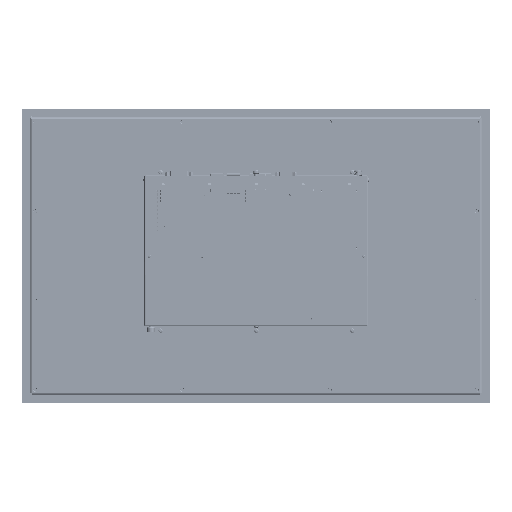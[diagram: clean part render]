
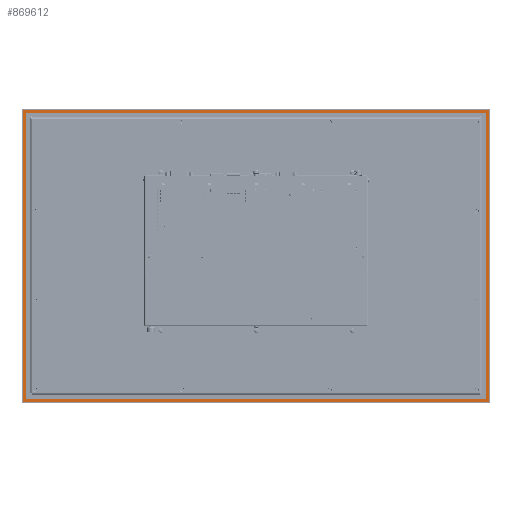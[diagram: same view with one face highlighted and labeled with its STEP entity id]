
A CAD part, front view. The second image highlights one B-rep face of the part: STEP entity #869612.
In plain terms, the highlighted planar face has unit normal (0, -1, 0).
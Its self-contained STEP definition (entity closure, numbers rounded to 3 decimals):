
#297 = CARTESIAN_POINT ( 'NONE',  ( 0., 0., 0. ) ) ;
#7777 = CARTESIAN_POINT ( 'NONE',  ( 312.75, 0., -195.25 ) ) ;
#24508 = VERTEX_POINT ( 'NONE', #7777 ) ;
#32258 = VECTOR ( 'NONE', #628864, 1000. ) ;
#38550 = CARTESIAN_POINT ( 'NONE',  ( 314., 0., 194. ) ) ;
#53491 = ORIENTED_EDGE ( 'NONE', *, *, #69085, .F. ) ;
#53752 = ORIENTED_EDGE ( 'NONE', *, *, #100572, .F. ) ;
#58156 = CARTESIAN_POINT ( 'NONE',  ( -316.75, 0., -198. ) ) ;
#63326 = CARTESIAN_POINT ( 'NONE',  ( 312.75, 0., 194. ) ) ;
#66238 = LINE ( 'NONE', #540839, #836467 ) ;
#67185 = VERTEX_POINT ( 'NONE', #253313 ) ;
#68948 = AXIS2_PLACEMENT_3D ( 'NONE', #264673, #598028, #872011 ) ;
#69085 = EDGE_CURVE ( 'NONE', #450495, #631180, #359707, .T. ) ;
#73912 = DIRECTION ( 'NONE',  ( 1., 0., 0. ) ) ;
#83525 = DIRECTION ( 'NONE',  ( 0., 0., 1. ) ) ;
#100572 = EDGE_CURVE ( 'NONE', #758669, #500595, #179753, .T. ) ;
#100598 = ORIENTED_EDGE ( 'NONE', *, *, #512531, .F. ) ;
#106411 = CIRCLE ( 'NONE', #631205, 1.75 ) ;
#109406 = CARTESIAN_POINT ( 'NONE',  ( -318.5, 0., -198. ) ) ;
#120532 = DIRECTION ( 'NONE',  ( 0., 1., 0. ) ) ;
#120855 = CARTESIAN_POINT ( 'NONE',  ( 314., 0., -194. ) ) ;
#126506 = ORIENTED_EDGE ( 'NONE', *, *, #386833, .F. ) ;
#146719 = CARTESIAN_POINT ( 'NONE',  ( -312.75, 0., 194. ) ) ;
#148867 = EDGE_LOOP ( 'NONE', ( #607547, #254751, #255456, #507257, #388522, #100598, #358288, #583175 ) ) ;
#149658 = EDGE_CURVE ( 'NONE', #853190, #758669, #171384, .T. ) ;
#158075 = DIRECTION ( 'NONE',  ( 0., 0., -1. ) ) ;
#161183 = VECTOR ( 'NONE', #735655, 1000. ) ;
#165554 = DIRECTION ( 'NONE',  ( 0., -1., 0. ) ) ;
#166749 = EDGE_CURVE ( 'NONE', #490085, #183990, #772131, .T. ) ;
#169907 = AXIS2_PLACEMENT_3D ( 'NONE', #501812, #165554, #637449 ) ;
#171384 = LINE ( 'NONE', #263730, #161183 ) ;
#179614 = VERTEX_POINT ( 'NONE', #38550 ) ;
#179753 = CIRCLE ( 'NONE', #68948, 1.75 ) ;
#183990 = VERTEX_POINT ( 'NONE', #469152 ) ;
#194014 = ORIENTED_EDGE ( 'NONE', *, *, #590833, .F. ) ;
#203504 = DIRECTION ( 'NONE',  ( 0., 1., 0. ) ) ;
#203873 = PLANE ( 'NONE',  #244177 ) ;
#205044 = VECTOR ( 'NONE', #158075, 1000. ) ;
#211348 = FACE_OUTER_BOUND ( 'NONE', #318984, .T. ) ;
#212690 = DIRECTION ( 'NONE',  ( -1., 0., 0. ) ) ;
#244177 = AXIS2_PLACEMENT_3D ( 'NONE', #297, #820170, #73912 ) ;
#250396 = EDGE_CURVE ( 'NONE', #541541, #490085, #426895, .T. ) ;
#253313 = CARTESIAN_POINT ( 'NONE',  ( -312.75, 0., 195.25 ) ) ;
#254751 = ORIENTED_EDGE ( 'NONE', *, *, #250396, .F. ) ;
#255456 = ORIENTED_EDGE ( 'NONE', *, *, #529761, .F. ) ;
#258815 = DIRECTION ( 'NONE',  ( 0., 1., 0. ) ) ;
#263730 = CARTESIAN_POINT ( 'NONE',  ( -316.75, 0., 199.75 ) ) ;
#264673 = CARTESIAN_POINT ( 'NONE',  ( 316.75, 0., 198. ) ) ;
#270617 = AXIS2_PLACEMENT_3D ( 'NONE', #146719, #494779, #429905 ) ;
#271308 = DIRECTION ( 'NONE',  ( 1., 0., 0. ) ) ;
#274707 = EDGE_CURVE ( 'NONE', #831346, #67185, #395986, .T. ) ;
#286462 = EDGE_CURVE ( 'NONE', #183990, #24508, #855879, .T. ) ;
#286692 = CARTESIAN_POINT ( 'NONE',  ( 316.75, 0., -199.75 ) ) ;
#301306 = ORIENTED_EDGE ( 'NONE', *, *, #574217, .F. ) ;
#302477 = DIRECTION ( 'NONE',  ( 1., 0., 0. ) ) ;
#318984 = EDGE_LOOP ( 'NONE', ( #53491, #194014, #616222, #53752, #471482, #854216, #126506, #301306 ) ) ;
#325978 = DIRECTION ( 'NONE',  ( 0., -1., 0. ) ) ;
#346023 = CARTESIAN_POINT ( 'NONE',  ( 318.5, 0., -198. ) ) ;
#358288 = ORIENTED_EDGE ( 'NONE', *, *, #616862, .F. ) ;
#359707 = LINE ( 'NONE', #286692, #32258 ) ;
#361467 = CIRCLE ( 'NONE', #169907, 1.25 ) ;
#386833 = EDGE_CURVE ( 'NONE', #484324, #450706, #66238, .T. ) ;
#388522 = ORIENTED_EDGE ( 'NONE', *, *, #445302, .F. ) ;
#393996 = AXIS2_PLACEMENT_3D ( 'NONE', #63326, #325978, #797967 ) ;
#395868 = VERTEX_POINT ( 'NONE', #120855 ) ;
#395986 = LINE ( 'NONE', #565336, #490828 ) ;
#411212 = CARTESIAN_POINT ( 'NONE',  ( 314., 0., -194. ) ) ;
#422236 = FACE_BOUND ( 'NONE', #148867, .T. ) ;
#426895 = LINE ( 'NONE', #556324, #205044 ) ;
#429905 = DIRECTION ( 'NONE',  ( 0., 0., 1. ) ) ;
#435914 = CARTESIAN_POINT ( 'NONE',  ( -314., 0., 194. ) ) ;
#445302 = EDGE_CURVE ( 'NONE', #179614, #831346, #758374, .T. ) ;
#449245 = AXIS2_PLACEMENT_3D ( 'NONE', #58156, #258815, #798621 ) ;
#450495 = VERTEX_POINT ( 'NONE', #818931 ) ;
#450706 = VERTEX_POINT ( 'NONE', #497245 ) ;
#454975 = CARTESIAN_POINT ( 'NONE',  ( 318.5, 0., 198. ) ) ;
#458879 = LINE ( 'NONE', #411212, #754188 ) ;
#464831 = CIRCLE ( 'NONE', #449245, 1.75 ) ;
#469152 = CARTESIAN_POINT ( 'NONE',  ( -312.75, 0., -195.25 ) ) ;
#471482 = ORIENTED_EDGE ( 'NONE', *, *, #149658, .F. ) ;
#482173 = CIRCLE ( 'NONE', #270617, 1.25 ) ;
#484324 = VERTEX_POINT ( 'NONE', #109406 ) ;
#490085 = VERTEX_POINT ( 'NONE', #548089 ) ;
#490828 = VECTOR ( 'NONE', #777630, 1000. ) ;
#494779 = DIRECTION ( 'NONE',  ( 0., -1., 0. ) ) ;
#497245 = CARTESIAN_POINT ( 'NONE',  ( -318.5, 0., 198. ) ) ;
#500595 = VERTEX_POINT ( 'NONE', #812044 ) ;
#501812 = CARTESIAN_POINT ( 'NONE',  ( 312.75, 0., -194. ) ) ;
#507257 = ORIENTED_EDGE ( 'NONE', *, *, #274707, .F. ) ;
#512531 = EDGE_CURVE ( 'NONE', #395868, #179614, #458879, .T. ) ;
#529761 = EDGE_CURVE ( 'NONE', #67185, #541541, #482173, .T. ) ;
#530926 = CARTESIAN_POINT ( 'NONE',  ( 312.75, 0., 195.25 ) ) ;
#540839 = CARTESIAN_POINT ( 'NONE',  ( -318.5, 0., -198. ) ) ;
#541541 = VERTEX_POINT ( 'NONE', #435914 ) ;
#548089 = CARTESIAN_POINT ( 'NONE',  ( -314., 0., -194. ) ) ;
#553604 = CARTESIAN_POINT ( 'NONE',  ( -316.75, 0., 199.75 ) ) ;
#556324 = CARTESIAN_POINT ( 'NONE',  ( -314., 0., 194. ) ) ;
#565336 = CARTESIAN_POINT ( 'NONE',  ( 312.75, 0., 195.25 ) ) ;
#574217 = EDGE_CURVE ( 'NONE', #631180, #484324, #464831, .T. ) ;
#583175 = ORIENTED_EDGE ( 'NONE', *, *, #286462, .F. ) ;
#590833 = EDGE_CURVE ( 'NONE', #702280, #450495, #691379, .T. ) ;
#592850 = LINE ( 'NONE', #454975, #792638 ) ;
#598028 = DIRECTION ( 'NONE',  ( 0., 1., 0. ) ) ;
#602973 = DIRECTION ( 'NONE',  ( 0., 0., 1. ) ) ;
#607547 = ORIENTED_EDGE ( 'NONE', *, *, #166749, .F. ) ;
#610559 = CARTESIAN_POINT ( 'NONE',  ( 316.75, 0., -198. ) ) ;
#616222 = ORIENTED_EDGE ( 'NONE', *, *, #794854, .F. ) ;
#616862 = EDGE_CURVE ( 'NONE', #24508, #395868, #361467, .T. ) ;
#619702 = DIRECTION ( 'NONE',  ( 0., -1., 0. ) ) ;
#624376 = CARTESIAN_POINT ( 'NONE',  ( -316.75, 0., -199.75 ) ) ;
#628864 = DIRECTION ( 'NONE',  ( -1., 0., 0. ) ) ;
#631180 = VERTEX_POINT ( 'NONE', #624376 ) ;
#631205 = AXIS2_PLACEMENT_3D ( 'NONE', #736981, #120532, #872418 ) ;
#637449 = DIRECTION ( 'NONE',  ( 0., 0., -1. ) ) ;
#638792 = CARTESIAN_POINT ( 'NONE',  ( -312.75, 0., -195.25 ) ) ;
#669933 = DIRECTION ( 'NONE',  ( 0., 0., -1. ) ) ;
#678773 = CARTESIAN_POINT ( 'NONE',  ( -312.75, 0., -194. ) ) ;
#691379 = CIRCLE ( 'NONE', #712814, 1.75 ) ;
#702280 = VERTEX_POINT ( 'NONE', #346023 ) ;
#712814 = AXIS2_PLACEMENT_3D ( 'NONE', #610559, #203504, #271308 ) ;
#735655 = DIRECTION ( 'NONE',  ( 1., 0., 0. ) ) ;
#736981 = CARTESIAN_POINT ( 'NONE',  ( -316.75, 0., 198. ) ) ;
#750284 = VECTOR ( 'NONE', #302477, 1000. ) ;
#754188 = VECTOR ( 'NONE', #83525, 1000. ) ;
#758374 = CIRCLE ( 'NONE', #393996, 1.25 ) ;
#758669 = VERTEX_POINT ( 'NONE', #857594 ) ;
#772131 = CIRCLE ( 'NONE', #793629, 1.25 ) ;
#777630 = DIRECTION ( 'NONE',  ( -1., 0., 0. ) ) ;
#792638 = VECTOR ( 'NONE', #669933, 1000. ) ;
#793629 = AXIS2_PLACEMENT_3D ( 'NONE', #678773, #619702, #212690 ) ;
#794854 = EDGE_CURVE ( 'NONE', #500595, #702280, #592850, .T. ) ;
#797967 = DIRECTION ( 'NONE',  ( 1., 0., 0. ) ) ;
#798621 = DIRECTION ( 'NONE',  ( 0., 0., -1. ) ) ;
#803186 = EDGE_CURVE ( 'NONE', #450706, #853190, #106411, .T. ) ;
#812044 = CARTESIAN_POINT ( 'NONE',  ( 318.5, 0., 198. ) ) ;
#818931 = CARTESIAN_POINT ( 'NONE',  ( 316.75, 0., -199.75 ) ) ;
#820170 = DIRECTION ( 'NONE',  ( 0., 1., 0. ) ) ;
#831346 = VERTEX_POINT ( 'NONE', #530926 ) ;
#836467 = VECTOR ( 'NONE', #602973, 1000. ) ;
#853190 = VERTEX_POINT ( 'NONE', #553604 ) ;
#854216 = ORIENTED_EDGE ( 'NONE', *, *, #803186, .F. ) ;
#855879 = LINE ( 'NONE', #638792, #750284 ) ;
#857594 = CARTESIAN_POINT ( 'NONE',  ( 316.75, 0., 199.75 ) ) ;
#869612 = ADVANCED_FACE ( 'NONE', ( #422236, #211348 ), #203873, .F. ) ;
#872011 = DIRECTION ( 'NONE',  ( 0., 0., 1. ) ) ;
#872418 = DIRECTION ( 'NONE',  ( -1., 0., 0. ) ) ;
